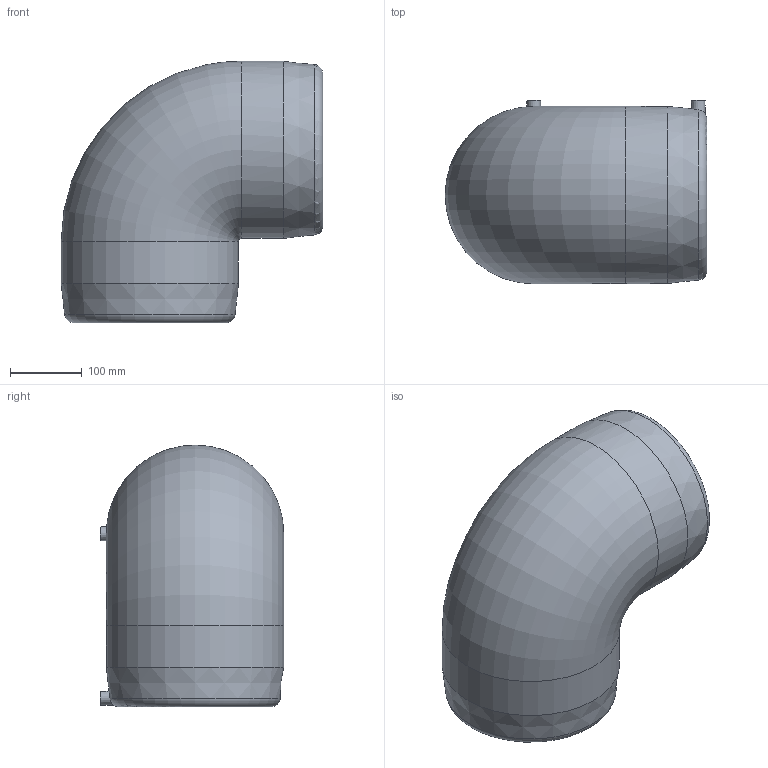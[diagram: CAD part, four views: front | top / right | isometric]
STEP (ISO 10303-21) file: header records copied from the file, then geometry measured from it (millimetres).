
FILE_DESCRIPTION(/* description */ ('Unknown'),/* implementation_level */ '2;1');
FILE_NAME(/* name */ 'GE9P200C',/* time_stamp */ '2021-02-11T16:51:03+01:00',/* author */ ('Unknown'),/* organization */ ('Unknown'),/* preprocessor_version */ 'ST-DEVELOPER v16.7',/* originating_system */ 'Solid Edge',/* authorisation */ 'Unknown');
FILE_SCHEMA (('AUTOMOTIVE_DESIGN {1 0 10303 214 3 1 1}'));
Length unit declared in the file: millimetre
Products named in the file (1): GE9P200C
Bounding box: 364.5 x 255.5 x 364.5 mm (x, y, z)
Volume: 7613463.1 mm3; surface area: 622343 mm2
Topology: 1 solids, 1 shells, 32 faces, 67 edges, 45 vertices
Faces by surface type: plane 12, cylinder 12, cone 4, torus 4
Full cylindrical faces by diameter (mm): 4 x2, 6 x2, 12 x2, 200 x2, 247 x2
Entity records: 846 total; most frequent: CARTESIAN_POINT 260, DIRECTION 120, ORIENTED_EDGE 78, AXIS2_PLACEMENT_3D 60, EDGE_LOOP 59, FACE_BOUND 59, EDGE_CURVE 39, VERTEX_POINT 34
